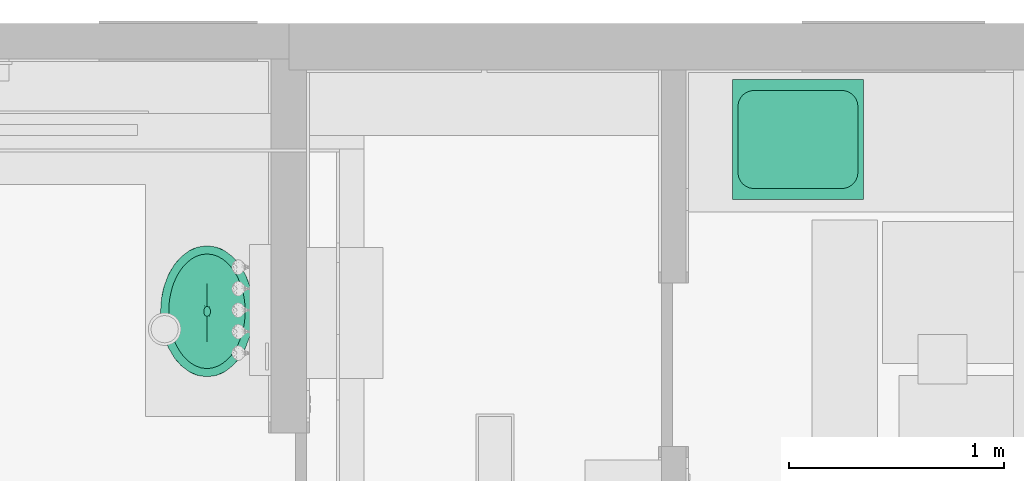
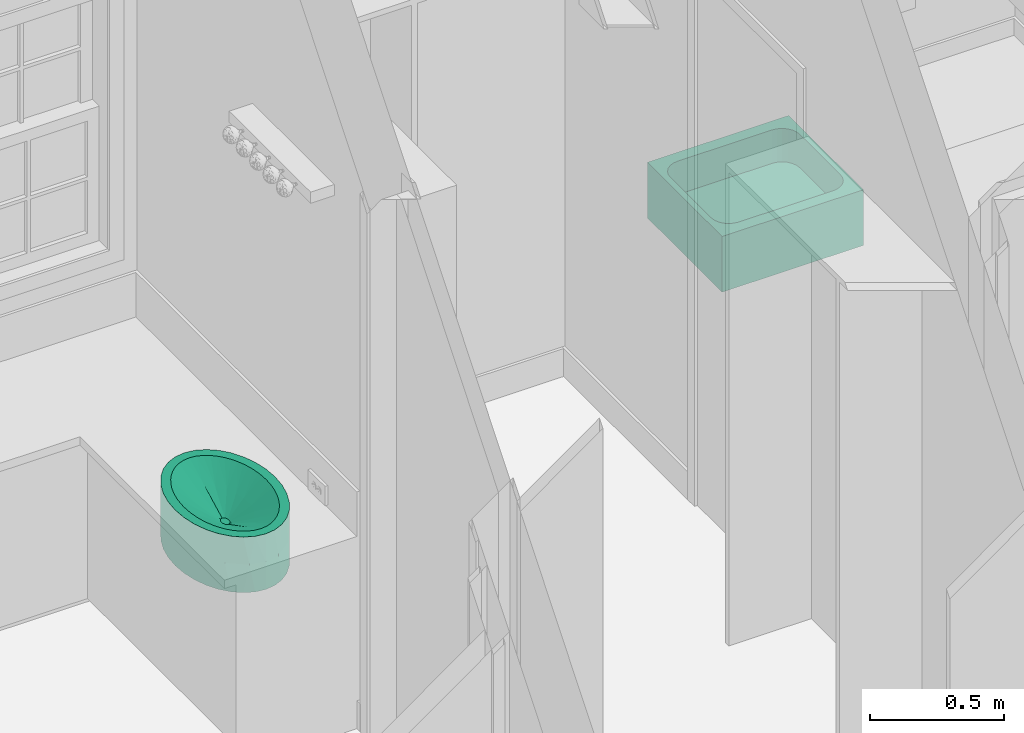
# One storey, part 55 of 81: 2 flow terminals.
"""IFC2X3 building model written with IfcOpenShell, lengths in feet."""

from ifc_helpers import new_model, entity, si_unit, converted_unit, derived_unit, direction, frame, origin, place, context, subcontext, project, spatial, faceted_brep, source, transform, mapped, material, type_object, type_shapes, element, save


model = new_model("IFC2X3")

# Units and contexts
model_context = context("Model", 3, precision=0.0001, world=origin(), true_north=direction((6.12303176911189e-17, 1.0)))
body_context = subcontext(model_context, "Body", "Model", "MODEL_VIEW")
ifc_project = project(units=[converted_unit("LENGTHUNIT", "FOOT", entity("IfcRatioMeasure", 0.3048), si_unit("LENGTHUNIT", "METRE"), dimensions=[1, 0, 0, 0, 0, 0, 0]), converted_unit("AREAUNIT", "SQUARE FOOT", entity("IfcRatioMeasure", 0.09290304), si_unit("AREAUNIT", "SQUARE_METRE"), dimensions=[2, 0, 0, 0, 0, 0, 0]), converted_unit("VOLUMEUNIT", "CUBIC FOOT", entity("IfcRatioMeasure", 0.028316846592), si_unit("VOLUMEUNIT", "CUBIC_METRE"), dimensions=[3, 0, 0, 0, 0, 0, 0]), converted_unit("PLANEANGLEUNIT", "DEGREE", entity("IfcRatioMeasure", 0.0174532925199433), si_unit("PLANEANGLEUNIT", "RADIAN"), dimensions=[0, 0, 0, 0, 0, 0, 0]), si_unit("MASSUNIT", "GRAM", prefix="KILO"), derived_unit("MASSDENSITYUNIT", [(si_unit("MASSUNIT", "GRAM", prefix="KILO"), 1), (si_unit("LENGTHUNIT", "METRE"), -3)]), derived_unit("MOMENTOFINERTIAUNIT", [(si_unit("LENGTHUNIT", "METRE"), 4)]), si_unit("TIMEUNIT", "SECOND"), si_unit("FREQUENCYUNIT", "HERTZ"), si_unit("THERMODYNAMICTEMPERATUREUNIT", "DEGREE_CELSIUS"), derived_unit("THERMALTRANSMITTANCEUNIT", [(si_unit("MASSUNIT", "GRAM", prefix="KILO"), 1), (si_unit("THERMODYNAMICTEMPERATUREUNIT", "KELVIN"), -1), (si_unit("TIMEUNIT", "SECOND"), -3)]), derived_unit("VOLUMETRICFLOWRATEUNIT", [(si_unit("LENGTHUNIT", "METRE"), 3), (si_unit("TIMEUNIT", "SECOND"), -1)]), si_unit("ELECTRICCURRENTUNIT", "AMPERE"), si_unit("ELECTRICVOLTAGEUNIT", "VOLT"), si_unit("POWERUNIT", "WATT"), si_unit("FORCEUNIT", "NEWTON"), si_unit("ILLUMINANCEUNIT", "LUX"), si_unit("LUMINOUSFLUXUNIT", "LUMEN"), si_unit("LUMINOUSINTENSITYUNIT", "CANDELA"), derived_unit("USERDEFINED", [(si_unit("MASSUNIT", "GRAM", prefix="KILO"), -1), (si_unit("LENGTHUNIT", "METRE"), -2), (si_unit("TIMEUNIT", "SECOND"), 3), (si_unit("LUMINOUSFLUXUNIT", "LUMEN"), 1)]), derived_unit("LINEARVELOCITYUNIT", [(si_unit("LENGTHUNIT", "METRE"), 1), (si_unit("TIMEUNIT", "SECOND"), -1)]), si_unit("PRESSUREUNIT", "PASCAL"), derived_unit("USERDEFINED", [(si_unit("LENGTHUNIT", "METRE"), -2), (si_unit("MASSUNIT", "GRAM", prefix="KILO"), 1), (si_unit("TIMEUNIT", "SECOND"), -2)]), derived_unit("LINEARFORCEUNIT", [(si_unit("MASSUNIT", "GRAM", prefix="KILO"), 1), (si_unit("LENGTHUNIT", "METRE"), 1), (si_unit("TIMEUNIT", "SECOND"), -2), (si_unit("LENGTHUNIT", "METRE"), -1)]), derived_unit("PLANARFORCEUNIT", [(si_unit("MASSUNIT", "GRAM", prefix="KILO"), 1), (si_unit("LENGTHUNIT", "METRE"), 1), (si_unit("TIMEUNIT", "SECOND"), -2), (si_unit("LENGTHUNIT", "METRE"), -2)])], contexts=[model_context])

# Site, building, storey
site_placement = place(None, origin())
site = spatial("IfcSite", under=ifc_project, at=site_placement, Name="Default", CompositionType="ELEMENT")
building_placement = place(site_placement, origin())
building = spatial("IfcBuilding", under=site, at=building_placement, CompositionType="ELEMENT")
storey_placement = place(building_placement, origin())
storey = spatial("IfcBuildingStorey", under=building, at=storey_placement, Name="First floor", CompositionType="ELEMENT", Elevation=0.0)

# Flow terminals
ifc_material = material(Name="Default New Material")
distribution_element_type_1 = type_object("IfcDistributionElementType", Name="Plumbing Fixtures 3:Plumbing Fixtures 3", material=ifc_material)
shared_shape_1 = source(origin(), body_context, "Body", "Brep", [
    faceted_brep([(0.0591524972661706, 0.622550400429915, 0.0), (0.0188442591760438, 0.810143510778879, 0.0), (0.00523383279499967, 1.00523383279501, 0.0), (0.0188442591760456, 1.20032415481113, 0.0), (0.0591524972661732, 1.3879172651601, 0.0), (0.124609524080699, 1.56080406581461, 0.0), (0.212699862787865, 1.71234061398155, 0.0), (0.320038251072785, 1.83670344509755, 0.0), (0.442499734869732, 1.92911336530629, 0.0), (0.57537818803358, 1.98601911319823, 0.0), (0.713567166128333, 2.005233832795, 0.0), (0.85175614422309, 1.98601911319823, 0.0), (0.984634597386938, 1.92911336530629, 0.0), (1.10709608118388, 1.83670344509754, 0.0), (1.2144344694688, 1.71234061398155, 0.0), (1.30252480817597, 1.5608040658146, 0.0), (1.36798183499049, 1.38791726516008, 0.0), (1.40829007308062, 1.20032415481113, 0.0), (1.42190049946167, 1.005233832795, 0.0), (1.40829007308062, 0.810143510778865, 0.0), (1.36798183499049, 0.622550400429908, 0.0), (1.30252480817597, 0.449663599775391, 0.0), (1.2144344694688, 0.298127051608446, 0.0), (1.10709608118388, 0.173764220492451, 0.0), (0.984634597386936, 0.0813543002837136, 0.0), (0.851756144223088, 0.0244485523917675, 0.0), (0.71356716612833, 0.00523383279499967, 0.0), (0.575378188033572, 0.0244485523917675, 0.0), (0.442499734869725, 0.0813543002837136, 0.0), (0.320038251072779, 0.173764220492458, 0.0), (0.21269986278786, 0.298127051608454, 0.0), (0.124609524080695, 0.449663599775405, 0.0), (0.0591524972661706, 0.622550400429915, 0.833333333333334), (0.124609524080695, 0.449663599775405, 0.833333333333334), (0.208671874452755, 0.570544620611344, 0.833333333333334), (0.180055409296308, 0.654491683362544, 0.833333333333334), (0.158096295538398, 0.740523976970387, 0.833333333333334), (0.0188442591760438, 0.810143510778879, 0.833333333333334), (0.244394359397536, 0.489066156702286, 0.833333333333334), (0.287530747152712, 0.411314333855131, 0.833333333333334), (0.21269986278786, 0.298127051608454, 0.833333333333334), (0.338509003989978, 0.338535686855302, 0.833333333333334), (0.320038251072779, 0.173764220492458, 0.833333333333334), (0.39777135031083, 0.272413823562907, 0.833333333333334), (0.465588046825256, 0.215273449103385, 0.833333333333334), (0.442499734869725, 0.0813543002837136, 0.833333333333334), (0.541858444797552, 0.170095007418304, 0.833333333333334), (0.575378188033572, 0.0244485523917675, 0.833333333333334), (0.625610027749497, 0.140545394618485, 0.833333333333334), (0.71356716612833, 0.00523383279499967, 0.833333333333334), (0.713567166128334, 0.130233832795, 0.833333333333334), (0.801524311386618, 0.140545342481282, 0.833333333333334), (0.851756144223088, 0.0244485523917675, 0.833333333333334), (0.885275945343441, 0.17009504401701, 0.833333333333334), (0.984634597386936, 0.0813543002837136, 0.833333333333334), (0.961546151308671, 0.215273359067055, 0.833333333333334), (1.10709608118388, 0.173764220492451, 0.833333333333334), (1.02936289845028, 0.272413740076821, 0.833333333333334), (1.08862526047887, 0.338535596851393, 0.833333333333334), (1.2144344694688, 0.298127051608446, 0.833333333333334), (1.13960351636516, 0.411314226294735, 0.833333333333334), (1.30252480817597, 0.449663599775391, 0.833333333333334), (1.18273990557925, 0.489066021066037, 0.833333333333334), (1.21846249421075, 0.57054471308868, 0.833333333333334), (1.36798183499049, 0.622550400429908, 0.833333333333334), (1.24707893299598, 0.654491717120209, 0.833333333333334), (1.26903803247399, 0.740523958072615, 0.833333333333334), (1.40829007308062, 0.810143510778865, 0.833333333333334), (1.28457524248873, 0.828028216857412, 0.833333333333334), (1.29382596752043, 0.916445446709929, 0.833333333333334), (1.42190049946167, 1.005233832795, 0.833333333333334), (1.29690049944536, 1.00524029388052, 0.833333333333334), (1.29382378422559, 1.09405369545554, 0.833333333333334), (1.40829007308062, 1.20032415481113, 0.833333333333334), (1.28457276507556, 1.18245707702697, 0.833333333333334), (1.26904188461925, 1.26992583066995, 0.833333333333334), (1.36798183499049, 1.38791726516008, 0.833333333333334), (1.2470942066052, 1.35592446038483, 0.833333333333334), (1.21843636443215, 1.43999039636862, 0.833333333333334), (1.30252480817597, 1.5608040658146, 0.833333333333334), (1.18272487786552, 1.52143210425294, 0.833333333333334), (1.1396064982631, 1.59914864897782, 0.833333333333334), (1.2144344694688, 1.71234061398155, 0.833333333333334), (1.08864754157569, 1.6719038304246, 0.833333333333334), (1.10709608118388, 1.83670344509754, 0.833333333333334), (1.02941962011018, 1.73799847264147, 0.833333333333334), (0.961661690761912, 1.79511141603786, 0.833333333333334), (0.984634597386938, 1.92911336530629, 0.833333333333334), (0.88519909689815, 1.840408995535, 0.833333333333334), (0.85175614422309, 1.98601911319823, 0.833333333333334), (0.80152299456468, 1.86992258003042, 0.833333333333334), (0.713567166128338, 2.005233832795, 0.833333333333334), (0.713567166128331, 1.880233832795, 0.833333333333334), (0.62561133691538, 1.86992263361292, 0.833333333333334), (0.57537818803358, 1.98601911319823, 0.833333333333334), (0.541935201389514, 1.84040897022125, 0.833333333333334), (0.442499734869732, 1.92911336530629, 0.833333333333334), (0.465472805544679, 1.79511152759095, 0.833333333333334), (0.320038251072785, 1.83670344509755, 0.833333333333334), (0.397714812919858, 1.73799857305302, 0.833333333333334), (0.338486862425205, 1.67190392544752, 0.833333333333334), (0.212699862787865, 1.71234061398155, 0.833333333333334), (0.28752789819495, 1.59914874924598, 0.833333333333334), (0.124609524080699, 1.56080406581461, 0.833333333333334), (0.24440951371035, 1.52143222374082, 0.833333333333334), (0.208698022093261, 1.43999053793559, 0.833333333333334), (0.0591524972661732, 1.3879172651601, 0.833333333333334), (0.180040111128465, 1.35592441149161, 0.833333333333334), (0.158092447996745, 1.26992583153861, 0.833333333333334), (0.0188442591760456, 1.20032415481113, 0.833333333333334), (0.1425615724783, 1.18245711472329, 0.833333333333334), (0.13331055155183, 1.09405374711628, 0.833333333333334), (0.00523383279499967, 1.00523383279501, 0.833333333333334), (0.133308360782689, 0.91644550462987, 0.833333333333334), (0.130233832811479, 1.00524033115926, 0.833333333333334), (0.142559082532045, 0.828028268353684, 0.833333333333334), (0.71356716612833, 0.00523383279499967, 0.404505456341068), (0.71356716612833, 0.00523383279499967, 0.416666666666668), (0.264205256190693, 0.232223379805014, 0.41666666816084), (0.507948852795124, 0.0482934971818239, 0.416666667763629), (0.507948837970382, 1.96217416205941, 0.41666663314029), (0.713567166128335, 2.005233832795, 0.404505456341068), (0.0888729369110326, 0.533837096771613, 0.416666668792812), (0.264205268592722, 1.77824430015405, 0.416666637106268), (0.0357344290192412, 1.29551851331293, 0.416666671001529), (0.141537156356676, 1.59500312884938, 0.416666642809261), (0.00864465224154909, 0.907216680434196, 0.416666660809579), (0.713567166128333, 2.005233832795, 0.416666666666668), (1.16292907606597, 1.77824428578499, 0.41666666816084), (0.91918547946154, 1.96217416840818, 0.416666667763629), (0.919185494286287, 0.0482935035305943, 0.41666663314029), (1.33826139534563, 1.47663056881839, 0.416666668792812), (1.16292906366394, 0.232223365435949, 0.416666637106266), (1.39139990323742, 0.714949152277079, 0.416666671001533), (1.28559717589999, 0.415464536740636, 0.416666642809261), (1.41848968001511, 1.1032509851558, 0.416666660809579), (0.766189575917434, 1.02720739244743, 0.416666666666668), (0.756540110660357, 1.0467377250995, 0.416666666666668), (0.74689064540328, 1.06626805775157, 0.416666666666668), (0.731277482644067, 1.07372798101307, 0.416666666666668), (0.715664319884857, 1.08118790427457, 0.416666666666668), (0.700051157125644, 1.07372798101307, 0.416666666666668), (0.684437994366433, 1.06626805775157, 0.416666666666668), (0.674788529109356, 1.0467377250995, 0.416666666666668), (0.665139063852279, 1.02720739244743, 0.416666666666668), (0.66513906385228, 1.00306657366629, 0.416666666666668), (0.66513906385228, 0.978925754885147, 0.416666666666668), (0.674788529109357, 0.959395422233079, 0.416666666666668), (0.684437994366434, 0.939865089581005, 0.416666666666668), (0.700051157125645, 0.932405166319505, 0.416666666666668), (0.715664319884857, 0.924945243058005, 0.416666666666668), (0.731277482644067, 0.932405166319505, 0.416666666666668), (0.74689064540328, 0.939865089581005, 0.416666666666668), (0.756540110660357, 0.959395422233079, 0.416666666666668), (0.766189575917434, 0.978925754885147, 0.416666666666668), (0.766189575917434, 1.00306657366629, 0.416666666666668), (0.986459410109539, 1.20847216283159, 0.614304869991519), (1.02048121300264, 0.884764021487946, 0.623447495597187), (1.0124166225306, 1.07250309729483, 0.611683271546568), (0.979197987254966, 0.747332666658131, 0.623216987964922), (0.92233155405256, 1.32852908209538, 0.611425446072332), (0.905297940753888, 0.620350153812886, 0.626640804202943), (0.829490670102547, 1.44574003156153, 0.623998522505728), (0.82667384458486, 0.56066276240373, 0.624115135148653), (0.714364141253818, 1.576574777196, 0.674988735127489), (0.714364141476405, 0.432245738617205, 0.674988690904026), (0.71436219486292, 0.431508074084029, 0.675375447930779), (0.714362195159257, 1.57731626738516, 0.675375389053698), (0.442881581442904, 0.799724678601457, 0.614301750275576), (0.408767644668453, 1.12351933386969, 0.623446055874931), (0.416939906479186, 0.935669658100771, 0.611689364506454), (0.450057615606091, 1.26098058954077, 0.623221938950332), (0.50704651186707, 0.679626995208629, 0.61142122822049), (0.52390143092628, 1.38793176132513, 0.62663322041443), (0.599768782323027, 0.562568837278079, 0.623984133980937), (0.602545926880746, 1.44764153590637, 0.624127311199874)], [[[0, 1, 2, 3, 4, 5, 6, 7, 8, 9, 10, 11, 12, 13, 14, 15, 16, 17, 18, 19, 20, 21, 22, 23, 24, 25, 26, 27, 28, 29, 30, 31]], [[32, 33, 34]], [[32, 34, 35]], [[32, 35, 36]], [[37, 32, 36]], [[38, 34, 33]], [[33, 39, 38]], [[39, 33, 40]], [[40, 41, 39]], [[40, 42, 41]], [[43, 41, 42]], [[44, 43, 42]], [[42, 45, 44]], [[45, 46, 44]], [[46, 45, 47]], [[47, 48, 46]], [[49, 48, 47]], [[48, 49, 50]], [[50, 49, 51]], [[51, 49, 52]], [[52, 53, 51]], [[52, 54, 53]], [[53, 54, 55]], [[55, 54, 56]], [[57, 55, 56]], [[56, 58, 57]], [[59, 58, 56]], [[60, 58, 59]], [[61, 60, 59]], [[60, 61, 62]], [[61, 63, 62]], [[63, 61, 64]], [[63, 64, 65]], [[65, 64, 66]], [[64, 67, 66]], [[68, 66, 67]], [[67, 69, 68]], [[69, 67, 70]], [[69, 70, 71]], [[71, 70, 72]], [[72, 70, 73]], [[72, 73, 74]], [[75, 74, 73]], [[75, 73, 76]], [[76, 77, 75]], [[76, 78, 77]], [[76, 79, 78]], [[79, 80, 78]], [[79, 81, 80]], [[81, 79, 82]], [[82, 83, 81]], [[84, 83, 82]], [[83, 84, 85]], [[86, 85, 84]], [[86, 84, 87]], [[87, 88, 86]], [[89, 88, 87]], [[88, 89, 90]], [[91, 90, 89]], [[92, 90, 91]], [[91, 93, 92]], [[91, 94, 93]], [[93, 94, 95]], [[96, 95, 94]], [[96, 97, 95]], [[97, 96, 98]], [[99, 97, 98]], [[100, 99, 98]], [[100, 98, 101]], [[100, 101, 102]], [[103, 102, 101]], [[102, 103, 104]], [[104, 103, 105]], [[103, 106, 105]], [[105, 106, 107]], [[106, 108, 107]], [[109, 108, 106]], [[110, 108, 109]], [[111, 110, 109]], [[112, 111, 109]], [[112, 37, 113]], [[112, 113, 114]], [[111, 112, 114]], [[36, 115, 37]], [[115, 113, 37]], [[27, 26, 116, 117]], [[117, 49, 47]], [[118, 119, 45, 42]], [[120, 94, 121]], [[40, 33, 122, 118]], [[123, 101, 98]], [[112, 109, 124]], [[124, 109, 106]], [[106, 103, 125]], [[125, 124, 106]], [[126, 3, 2]], [[101, 123, 125]], [[96, 120, 123, 98]], [[112, 124, 126]], [[120, 8, 7, 123]], [[121, 10, 9]], [[94, 91, 127, 121]], [[120, 96, 94]], [[121, 9, 120]], [[5, 4, 125]], [[6, 125, 123]], [[7, 6, 123]], [[28, 119, 118, 29]], [[0, 122, 1]], [[125, 4, 124]], [[125, 103, 101]], [[124, 4, 3]], [[31, 30, 118, 122]], [[126, 124, 3]], [[33, 32, 122]], [[126, 122, 32]], [[119, 47, 45]], [[42, 40, 118]], [[32, 37, 126]], [[1, 126, 2]], [[119, 117, 47]], [[122, 126, 1]], [[31, 122, 0]], [[8, 120, 9]], [[30, 29, 118]], [[27, 119, 28]], [[27, 117, 119]], [[37, 112, 126]], [[5, 125, 6]], [[11, 10, 121, 127]], [[127, 91, 89]], [[128, 129, 87, 84]], [[130, 52, 116]], [[82, 79, 131, 128]], [[132, 59, 56]], [[70, 67, 133]], [[133, 67, 64]], [[64, 61, 134]], [[134, 133, 64]], [[135, 19, 18]], [[59, 132, 134]], [[54, 130, 132, 56]], [[70, 133, 135]], [[130, 24, 23, 132]], [[116, 26, 25]], [[52, 49, 117, 116]], [[130, 54, 52]], [[116, 25, 130]], [[21, 20, 134]], [[22, 134, 132]], [[23, 22, 132]], [[12, 129, 128, 13]], [[16, 131, 17]], [[134, 20, 133]], [[134, 61, 59]], [[133, 20, 19]], [[15, 14, 128, 131]], [[135, 133, 19]], [[79, 76, 131]], [[135, 131, 76]], [[129, 89, 87]], [[84, 82, 128]], [[76, 73, 135]], [[17, 135, 18]], [[129, 127, 89]], [[131, 135, 17]], [[15, 131, 16]], [[24, 130, 25]], [[14, 13, 128]], [[11, 129, 12]], [[11, 127, 129]], [[73, 70, 135]], [[21, 134, 22]], [[136, 137, 138, 139, 140, 141, 142, 143, 144, 145, 146, 147, 148, 149, 150, 151, 152, 153, 154, 155]], [[78, 80, 156]], [[155, 157, 158]], [[158, 156, 136]], [[157, 155, 154]], [[156, 75, 77]], [[156, 137, 136]], [[72, 158, 71]], [[157, 159, 65]], [[156, 158, 75]], [[156, 160, 137]], [[161, 58, 60]], [[153, 159, 154]], [[160, 138, 137]], [[71, 157, 69]], [[162, 88, 90]], [[158, 157, 71]], [[160, 85, 162]], [[51, 53, 163]], [[74, 158, 72]], [[90, 164, 162]], [[80, 81, 160]], [[83, 160, 81]], [[140, 139, 164]], [[160, 156, 80]], [[83, 85, 160]], [[160, 162, 138]], [[63, 159, 62]], [[161, 152, 163]], [[157, 68, 69]], [[161, 163, 55]], [[55, 163, 53]], [[153, 161, 159]], [[154, 159, 157]], [[57, 161, 55]], [[51, 165, 166, 50]], [[163, 165, 51]], [[151, 163, 152]], [[164, 139, 162]], [[90, 92, 167, 164]], [[163, 151, 165]], [[156, 77, 78]], [[66, 68, 157]], [[86, 88, 162]], [[66, 157, 65]], [[158, 136, 155]], [[62, 159, 60]], [[159, 161, 60]], [[162, 139, 138]], [[85, 86, 162]], [[58, 161, 57]], [[159, 63, 65]], [[74, 75, 158]], [[151, 150, 165]], [[153, 152, 161]], [[34, 38, 168]], [[145, 169, 170]], [[170, 168, 146]], [[169, 145, 144]], [[168, 36, 35]], [[168, 147, 146]], [[113, 170, 114]], [[169, 171, 107]], [[168, 170, 36]], [[168, 172, 147]], [[173, 100, 102]], [[143, 171, 144]], [[172, 148, 147]], [[114, 169, 111]], [[174, 46, 48]], [[170, 169, 114]], [[172, 43, 174]], [[93, 95, 175]], [[115, 170, 113]], [[48, 166, 174]], [[38, 39, 172]], [[41, 172, 39]], [[149, 166, 165, 150]], [[172, 168, 38]], [[41, 43, 172]], [[172, 174, 148]], [[105, 171, 104]], [[173, 142, 175]], [[169, 110, 111]], [[173, 175, 97]], [[97, 175, 95]], [[143, 173, 171]], [[144, 171, 169]], [[99, 173, 97]], [[167, 92, 93]], [[175, 167, 93]], [[141, 175, 142]], [[166, 149, 174]], [[48, 50, 166]], [[175, 141, 167]], [[168, 35, 34]], [[108, 110, 169]], [[44, 46, 174]], [[108, 169, 107]], [[170, 146, 145]], [[104, 171, 102]], [[171, 173, 102]], [[174, 149, 148]], [[43, 44, 174]], [[100, 173, 99]], [[171, 105, 107]], [[115, 36, 170]], [[141, 140, 164, 167]], [[143, 142, 173]]]),
])
type_shapes(distribution_element_type_1, [shared_shape_1])
flow_terminal_1_placement = place(storey_placement, frame((5.72383609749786, 42.6433511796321, 12.7083333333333)))
element("IfcFlowTerminal", 1, at=flow_terminal_1_placement, inside=storey, type_object=distribution_element_type_1, material=ifc_material, Name="Plumbing Fixtures 3:Plumbing Fixtures 3", ObjectType="Plumbing Fixtures 3:Plumbing Fixtures 3", context=body_context, shape_type="MappedRepresentation", body=[
    mapped(shared_shape_1, transform((0.0, 0.0, 0.0), scale=1.0)),
])
distribution_element_type_2 = type_object("IfcDistributionElementType", Name="Plumbing Fixtures 4:Plumbing Fixtures 4", material=ifc_material)
shared_shape_2 = source(origin(), body_context, "Body", "Brep", [
    faceted_brep([(0.0, 0.0, 0.0), (0.0, 1.83333333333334, 0.0), (2.0, 1.83333333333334, 0.0), (2.0, 0.0, 0.0), (2.0, 1.83333333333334, 0.833333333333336), (1.88317301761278, 1.54166666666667, 0.833333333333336), (1.90814812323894, 1.4813714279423, 0.833333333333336), (1.84344336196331, 1.59344336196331, 0.833333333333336), (1.91666666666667, 1.41666666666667, 0.833333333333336), (1.91666666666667, 0.416666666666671, 0.833333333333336), (1.79166666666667, 1.63317301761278, 0.833333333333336), (1.7313714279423, 1.65814812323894, 0.833333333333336), (1.66666666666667, 1.66666666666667, 0.833333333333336), (0.333333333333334, 1.66666666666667, 0.833333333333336), (2.0, 0.0, 0.833333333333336), (0.0, 1.83333333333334, 0.833333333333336), (0.268628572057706, 1.65814812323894, 0.833333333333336), (0.208333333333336, 1.63317301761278, 0.833333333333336), (0.156556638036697, 1.59344336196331, 0.833333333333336), (0.116826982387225, 1.54166666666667, 0.833333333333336), (0.0918518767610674, 1.48137142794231, 0.833333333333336), (0.0833333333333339, 1.41666666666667, 0.833333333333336), (0.0833333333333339, 0.416666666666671, 0.833333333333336), (0.0, 0.0, 0.833333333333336), (0.0918518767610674, 0.351961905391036, 0.833333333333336), (0.116826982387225, 0.291666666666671, 0.833333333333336), (0.156556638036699, 0.239889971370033, 0.833333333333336), (0.208333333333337, 0.200160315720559, 0.833333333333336), (0.268628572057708, 0.175185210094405, 0.833333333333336), (0.333333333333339, 0.166666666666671, 0.833333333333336), (1.90814812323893, 0.351961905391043, 0.833333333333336), (1.88317301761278, 0.291666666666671, 0.833333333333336), (1.84344336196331, 0.239889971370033, 0.833333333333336), (1.79166666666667, 0.200160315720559, 0.833333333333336), (1.7313714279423, 0.175185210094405, 0.833333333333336), (1.66666666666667, 0.166666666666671, 0.833333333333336), (0.0918518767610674, 1.4813714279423, 0.333333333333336), (0.0833333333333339, 1.41666666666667, 0.333333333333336), (0.0833333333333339, 0.416666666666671, 0.333333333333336), (0.0918518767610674, 0.351961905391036, 0.333333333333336), (0.116826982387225, 0.291666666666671, 0.333333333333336), (0.156556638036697, 0.239889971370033, 0.333333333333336), (0.208333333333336, 0.200160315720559, 0.333333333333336), (0.268628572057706, 0.175185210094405, 0.333333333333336), (0.333333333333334, 0.166666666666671, 0.333333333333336), (1.66666666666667, 0.166666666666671, 0.333333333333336), (1.7313714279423, 0.175185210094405, 0.333333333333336), (1.79166666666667, 0.200160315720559, 0.333333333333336), (1.84344336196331, 0.239889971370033, 0.333333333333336), (1.88317301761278, 0.291666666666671, 0.333333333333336), (1.90814812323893, 0.351961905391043, 0.333333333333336), (1.91666666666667, 0.416666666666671, 0.333333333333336), (1.91666666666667, 1.41666666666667, 0.333333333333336), (1.90814812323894, 1.4813714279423, 0.333333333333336), (1.88317301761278, 1.54166666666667, 0.333333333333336), (1.84344336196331, 1.59344336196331, 0.333333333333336), (1.79166666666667, 1.63317301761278, 0.333333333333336), (1.7313714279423, 1.65814812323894, 0.333333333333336), (1.66666666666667, 1.66666666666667, 0.333333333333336), (0.333333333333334, 1.66666666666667, 0.333333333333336), (0.268628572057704, 1.65814812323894, 0.333333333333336), (0.208333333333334, 1.63317301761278, 0.333333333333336), (0.156556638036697, 1.59344336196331, 0.333333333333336), (0.116826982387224, 1.54166666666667, 0.333333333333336)], [[[0, 1, 2, 3]], [[4, 5, 6]], [[5, 4, 7]], [[6, 8, 4]], [[4, 8, 9]], [[10, 7, 4]], [[11, 10, 4]], [[12, 11, 4]], [[4, 13, 12]], [[9, 14, 4]], [[13, 4, 15]], [[16, 13, 15]], [[16, 15, 17]], [[18, 17, 15]], [[15, 19, 18]], [[19, 15, 20]], [[21, 20, 15]], [[15, 22, 21]], [[22, 15, 23]], [[24, 22, 23]], [[23, 25, 24]], [[25, 23, 26]], [[27, 26, 23]], [[27, 23, 28]], [[29, 28, 23]], [[29, 23, 14]], [[9, 30, 14]], [[31, 14, 30]], [[14, 31, 32]], [[32, 33, 14]], [[33, 34, 14]], [[34, 35, 14]], [[14, 35, 29]], [[15, 4, 2, 1]], [[23, 15, 1, 0]], [[14, 23, 0, 3]], [[4, 14, 3, 2]], [[36, 37, 38, 39, 40, 41, 42, 43, 44, 45, 46, 47, 48, 49, 50, 51, 52, 53, 54, 55, 56, 57, 58, 59, 60, 61, 62, 63]], [[13, 59, 58, 12]], [[10, 11, 57, 56]], [[7, 10, 56, 55]], [[58, 57, 11, 12]], [[6, 5, 54, 53]], [[8, 6, 53, 52]], [[54, 5, 7, 55]], [[8, 52, 51, 9]], [[31, 30, 50, 49]], [[32, 31, 49, 48]], [[51, 50, 30, 9]], [[34, 33, 47, 46]], [[35, 34, 46, 45]], [[47, 33, 32, 48]], [[29, 35, 45, 44]], [[27, 28, 43, 42]], [[26, 27, 42, 41]], [[44, 43, 28, 29]], [[24, 25, 40, 39]], [[22, 24, 39, 38]], [[40, 25, 26, 41]], [[22, 38, 37, 21]], [[63, 62, 18, 19]], [[20, 21, 37, 36]], [[36, 63, 19, 20]], [[16, 17, 61, 60]], [[13, 16, 60, 59]], [[61, 17, 18, 62]]]),
])
type_shapes(distribution_element_type_2, [shared_shape_2])
flow_terminal_2_placement = place(storey_placement, frame((14.4583333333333, 45.3538215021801, 12.7083333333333)))
element("IfcFlowTerminal", 2, at=flow_terminal_2_placement, inside=storey, type_object=distribution_element_type_2, material=ifc_material, Name="Plumbing Fixtures 4:Plumbing Fixtures 4", ObjectType="Plumbing Fixtures 4:Plumbing Fixtures 4", context=body_context, shape_type="MappedRepresentation", body=[
    mapped(shared_shape_2, transform((0.0, 0.0, 0.0), scale=1.0)),
])

save(model, "model.ifc")
